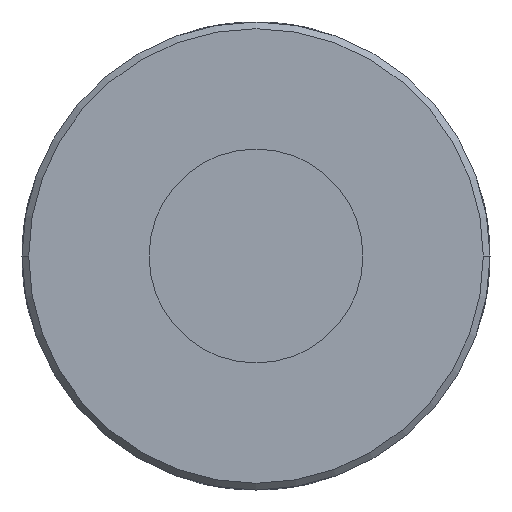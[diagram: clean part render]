
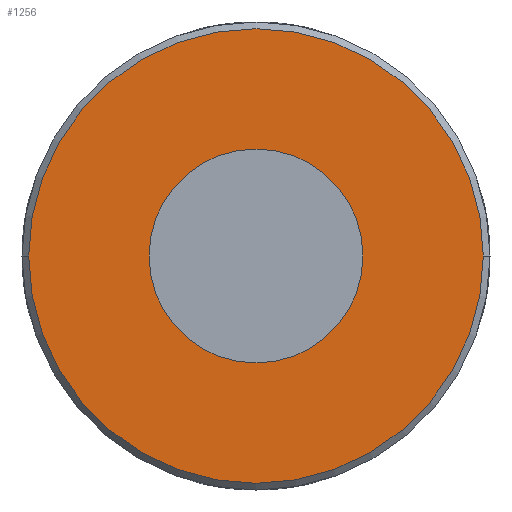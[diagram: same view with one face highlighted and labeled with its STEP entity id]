
A CAD part, left-side view. The second image highlights one B-rep face of the part: STEP entity #1256.
In plain terms, the highlighted planar face has unit normal (-1, 0, 0).
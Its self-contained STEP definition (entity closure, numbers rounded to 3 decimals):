
#703=CARTESIAN_POINT('',(0.,0.,0.));
#704=DIRECTION('',(1.,0.,0.));
#705=DIRECTION('',(0.,1.,0.));
#706=AXIS2_PLACEMENT_3D('',#703,#704,#705);
#711=CARTESIAN_POINT('',(0.,0.,0.));
#712=DIRECTION('',(-1.,0.,0.));
#713=DIRECTION('',(0.,1.,0.));
#714=AXIS2_PLACEMENT_3D('',#711,#712,#713);
#733=CARTESIAN_POINT('',(0.,0.,0.));
#734=DIRECTION('',(-1.,0.,0.));
#735=DIRECTION('',(0.,1.,0.));
#736=AXIS2_PLACEMENT_3D('',#733,#734,#735);
#741=CARTESIAN_POINT('',(0.,0.,0.));
#742=DIRECTION('',(1.,0.,0.));
#743=DIRECTION('',(0.,1.,0.));
#744=AXIS2_PLACEMENT_3D('',#741,#742,#743);
#827=CARTESIAN_POINT('',(0.,17.,0.));
#828=VERTEX_POINT('',#827);
#829=CARTESIAN_POINT('',(0.,8.,0.));
#831=VERTEX_POINT('',#829);
#849=CARTESIAN_POINT('',(0.,-17.,0.));
#850=VERTEX_POINT('',#849);
#851=CARTESIAN_POINT('',(0.,-8.,0.));
#853=VERTEX_POINT('',#851);
#1241=CARTESIAN_POINT('',(0.,0.,0.));
#1242=DIRECTION('',(1.,0.,0.));
#1243=DIRECTION('',(0.,-1.,0.));
#1244=AXIS2_PLACEMENT_3D('',#1241,#1242,#1243);
#1245=PLANE('',#1244);
#1246=ORIENTED_EDGE('',*,*,#1223,.T.);
#1247=ORIENTED_EDGE('',*,*,#1234,.F.);
#1248=EDGE_LOOP('',(#1246,#1247));
#1249=FACE_OUTER_BOUND('',#1248,.F.);
#1251=ORIENTED_EDGE('',*,*,#1250,.T.);
#1253=ORIENTED_EDGE('',*,*,#1252,.F.);
#1254=EDGE_LOOP('',(#1251,#1253));
#1255=FACE_BOUND('',#1254,.F.);
#707=CIRCLE('',#706,17.);
#715=CIRCLE('',#714,17.);
#737=CIRCLE('',#736,8.);
#745=CIRCLE('',#744,8.);
#1223=EDGE_CURVE('',#828,#850,#707,.T.);
#1234=EDGE_CURVE('',#828,#850,#715,.T.);
#1250=EDGE_CURVE('',#831,#853,#737,.T.);
#1252=EDGE_CURVE('',#831,#853,#745,.T.);
#1256=ADVANCED_FACE('',(#1249,#1255),#1245,.F.);
